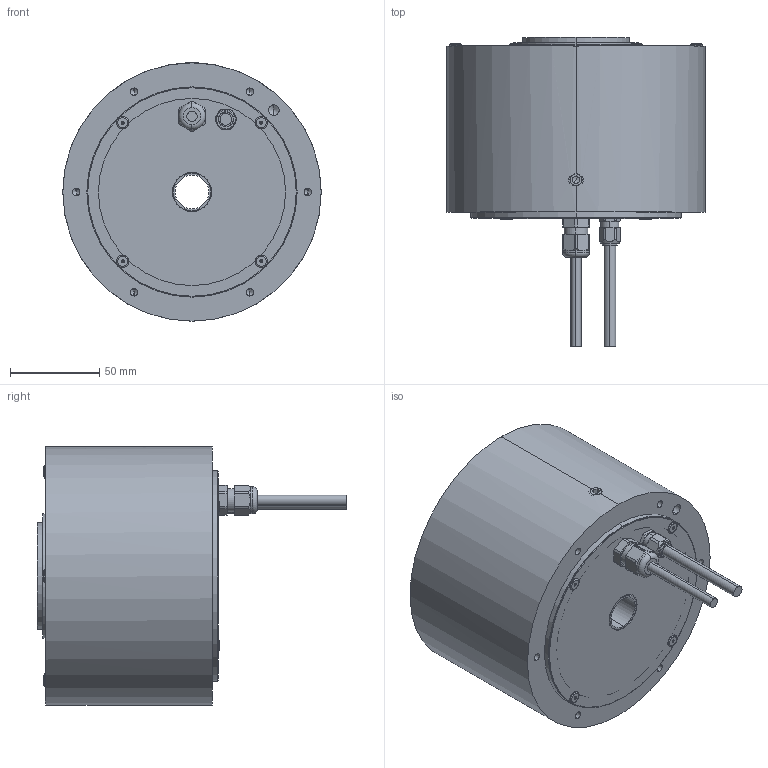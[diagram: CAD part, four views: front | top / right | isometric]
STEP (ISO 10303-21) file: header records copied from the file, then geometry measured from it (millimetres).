
FILE_DESCRIPTION (( 'STEP AP214' ), '1' );
FILE_NAME ('ND140-95-LS-UC(ABS).step', '2025-03-11T00:59:14', ( '' ), ( '' ), 'SwSTEP 2.0', 'SolidWorks 2024', '' );
FILE_SCHEMA (( 'AUTOMOTIVE_DESIGN' ));
Length unit declared in the file: millimetre
Products named in the file (1): ND140-95-LS-UC(ABS)
Bounding box: 145 x 173.5 x 145 mm (x, y, z)
Volume: 519781.1 mm3; surface area: 175179.4 mm2
Topology: 17 solids, 17 shells, 680 faces, 1708 edges, 1049 vertices
Faces by surface type: cylinder 378, cone 137, plane 111, torus 32, sphere 22
Entity records: 21289 total; most frequent: CARTESIAN_POINT 4952, DIRECTION 3532, ORIENTED_EDGE 3264, EDGE_CURVE 1632, AXIS2_PLACEMENT_3D 1453, VERTEX_POINT 1049, EDGE_LOOP 777, CIRCLE 772
